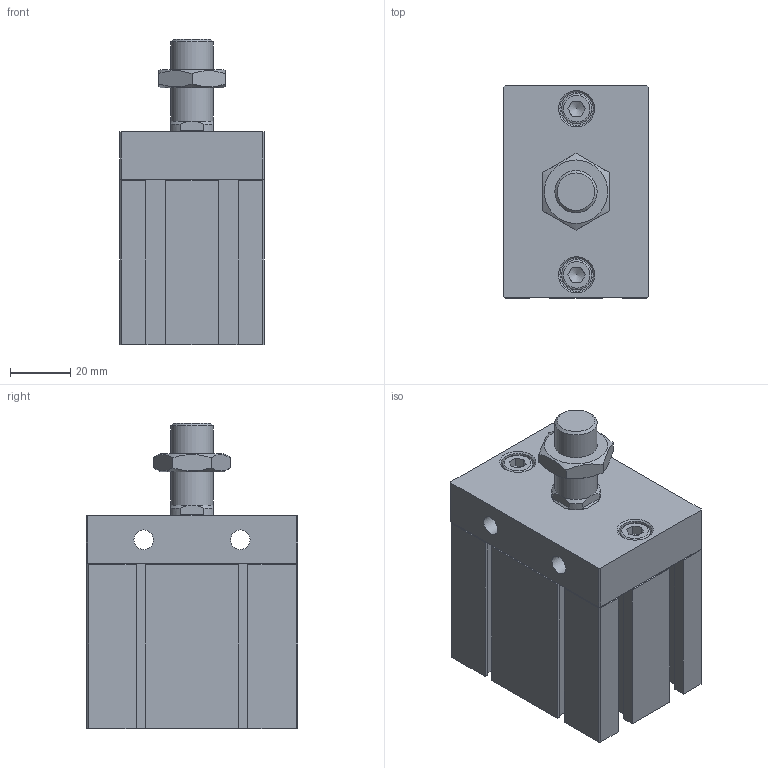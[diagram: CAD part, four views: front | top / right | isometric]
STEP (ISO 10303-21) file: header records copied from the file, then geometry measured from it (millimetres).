
FILE_DESCRIPTION((''),'2;1');
FILE_NAME('I:\3D電子目錄\氣缸\ND\ND\ND40-B\ND40x20-B.stp','2007-07-30T19:17:40',('Administrator'),(''),'Autodesk Inventor 11','Autodesk Inventor 11','');
FILE_SCHEMA(('AUTOMOTIVE_DESIGN { 1 0 10303 214 1 1 1 1 }'));
Length unit declared in the file: millimetre
Products named in the file (4): ND40-B; R 形環 42; ISO 4762 M6 x 20
Assembly tree (4 placements, depth 2):
  ND40-B
    ND40-B
    R 形環 42
    ISO 4762 M6 x 20  x2
Bounding box: 48 x 70.1 x 101 mm (x, y, z)
Volume: 216622.3 mm3; surface area: 40616.4 mm2
Topology: 5 solids, 5 shells, 207 faces, 501 edges, 321 vertices
Faces by surface type: plane 143, cylinder 27, cone 20, bspline 14, torus 3
Full cylindrical faces by diameter (mm): 1.9 x2, 2.2 x2, 6 x2, 6.5 x2, 10 x2, 11 x2, 14 x2, 29 x1, 42 x1, 44.5 x1
Entity records: 5567 total; most frequent: CARTESIAN_POINT 1155, DIRECTION 864, ORIENTED_EDGE 848, EDGE_CURVE 424, VECTOR 306, LINE 306, VERTEX_POINT 296, AXIS2_PLACEMENT_3D 279
